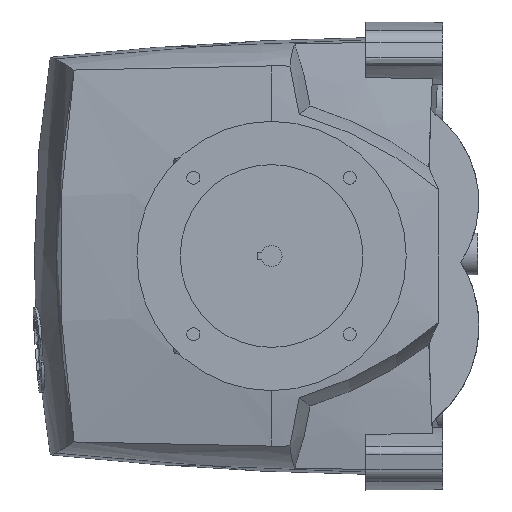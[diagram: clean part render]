
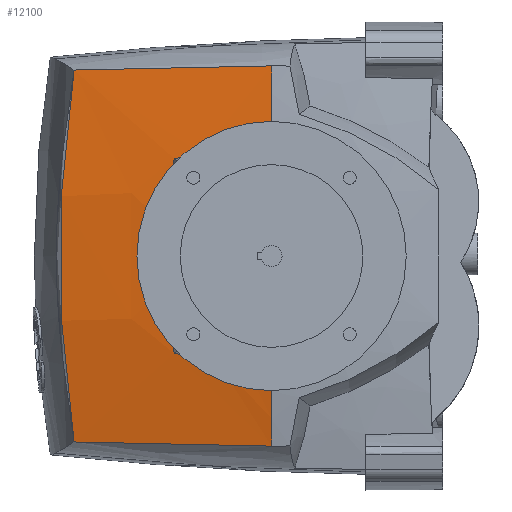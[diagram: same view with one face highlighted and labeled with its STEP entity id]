
A CAD part, left-side view. The second image highlights one B-rep face of the part: STEP entity #12100.
In plain terms, the highlighted free-form (B-spline) face has degree [3, 3] with [4, 4] control points.
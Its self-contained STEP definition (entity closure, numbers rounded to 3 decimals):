
#1861=CARTESIAN_POINT('',(-78.326,215.677,
-96.675));
#1862=CARTESIAN_POINT('',(-79.846,217.513,
-84.291));
#1863=CARTESIAN_POINT('',(-82.319,220.53,
-59.261));
#1864=CARTESIAN_POINT('',(-84.213,223.214,
-20.913));
#1865=CARTESIAN_POINT('',(-84.288,223.332,17.989));
#1866=CARTESIAN_POINT('',(-82.486,220.743,57.273));
#1867=CARTESIAN_POINT('',(-79.939,217.625,83.532));
#1868=CARTESIAN_POINT('',(-78.326,215.677,96.675));
#1931=CARTESIAN_POINT('',(589.642,113.006,
0.));
#1932=DIRECTION('',(0.,1.,0.));
#1933=DIRECTION('',(-0.99,0.,-0.144));
#1934=AXIS2_PLACEMENT_3D('',#1931,#1932,#1933);
#1936=CARTESIAN_POINT('',(-78.326,215.677,
-96.675));
#1937=CARTESIAN_POINT('',(-79.935,204.267,
-97.271));
#1938=CARTESIAN_POINT('',(-83.043,181.448,
-98.215));
#1939=CARTESIAN_POINT('',(-87.373,147.214,
-98.936));
#1940=CARTESIAN_POINT('',(-90.037,124.406,
-98.942));
#1941=CARTESIAN_POINT('',(-91.314,113.006,
-98.834));
#1943=CARTESIAN_POINT('',(-91.314,113.006,98.833));
#1944=CARTESIAN_POINT('',(-90.038,124.406,98.941));
#1945=CARTESIAN_POINT('',(-87.372,147.214,98.937));
#1946=CARTESIAN_POINT('',(-83.043,181.448,98.216));
#1947=CARTESIAN_POINT('',(-79.935,204.267,97.271));
#1948=CARTESIAN_POINT('',(-78.326,215.677,96.675));
#1950=CARTESIAN_POINT('',(589.642,113.006,
0.));
#1951=DIRECTION('',(0.,1.,0.));
#1952=DIRECTION('',(-0.997,0.,0.081));
#1953=AXIS2_PLACEMENT_3D('',#1950,#1951,#1952);
#1967=CARTESIAN_POINT('',(-90.566,163.6,50.6));
#1968=CARTESIAN_POINT('',(-90.926,165.596,42.327));
#1969=CARTESIAN_POINT('',(-91.487,168.604,25.547));
#1970=CARTESIAN_POINT('',(-91.759,170.119,
0.));
#1971=CARTESIAN_POINT('',(-91.486,168.604,
-25.547));
#1972=CARTESIAN_POINT('',(-90.925,165.596,
-42.327));
#1973=CARTESIAN_POINT('',(-90.566,163.6,
-50.6));
#2223=CARTESIAN_POINT('',(-96.183,112.991,55.818));
#2224=CARTESIAN_POINT('',(-95.55,118.676,55.931));
#2225=CARTESIAN_POINT('',(-94.294,130.001,55.688));
#2226=CARTESIAN_POINT('',(-92.413,146.926,53.945));
#2227=CARTESIAN_POINT('',(-91.181,158.075,51.865));
#2228=CARTESIAN_POINT('',(-90.566,163.6,50.6));
#2321=CARTESIAN_POINT('',(-90.566,163.6,
-50.6));
#2322=CARTESIAN_POINT('',(-91.18,158.075,
-51.865));
#2323=CARTESIAN_POINT('',(-92.413,146.925,
-53.945));
#2324=CARTESIAN_POINT('',(-94.293,130.002,
-55.688));
#2325=CARTESIAN_POINT('',(-95.55,118.674,
-55.93));
#2326=CARTESIAN_POINT('',(-96.183,112.995,
-55.818));
#8355=VERTEX_POINT('',#1861);
#8356=VERTEX_POINT('',#1868);
#8707=VERTEX_POINT('',#2223);
#8708=VERTEX_POINT('',#2228);
#8723=VERTEX_POINT('',#2321);
#8724=VERTEX_POINT('',#2326);
#8751=CARTESIAN_POINT('',(-91.315,113.006,98.833));
#8752=VERTEX_POINT('',#8751);
#8753=VERTEX_POINT('',#1941);
#12067=CARTESIAN_POINT('',(-76.188,225.431,
101.199));
#12068=CARTESIAN_POINT('',(-81.863,187.324,
102.061));
#12069=CARTESIAN_POINT('',(-86.76,149.107,
102.806));
#12070=CARTESIAN_POINT('',(-90.875,110.796,
103.431));
#12071=CARTESIAN_POINT('',(-86.403,225.431,
33.99));
#12072=CARTESIAN_POINT('',(-92.165,187.324,
34.28));
#12073=CARTESIAN_POINT('',(-97.137,149.107,
34.53));
#12074=CARTESIAN_POINT('',(-101.316,110.796,
34.74));
#12075=CARTESIAN_POINT('',(-86.403,225.431,
-33.99));
#12076=CARTESIAN_POINT('',(-92.165,187.324,
-34.28));
#12077=CARTESIAN_POINT('',(-97.137,149.107,
-34.53));
#12078=CARTESIAN_POINT('',(-101.316,110.796,
-34.74));
#12079=CARTESIAN_POINT('',(-76.188,225.431,
-101.198));
#12080=CARTESIAN_POINT('',(-81.863,187.324,
-102.061));
#12081=CARTESIAN_POINT('',(-86.76,149.107,
-102.805));
#12082=CARTESIAN_POINT('',(-90.875,110.796,
-103.431));
#12083=(BOUNDED_SURFACE()B_SPLINE_SURFACE(3,3,((#12067,#12068,#12069,#12070),(
#12071,#12072,#12073,#12074),(#12075,#12076,#12077,#12078),(#12079,#12080,
#12081,#12082)),.UNSPECIFIED.,.F.,.F.,.F.)B_SPLINE_SURFACE_WITH_KNOTS((4,4),(4,
4),(0.,1.),(0.,1.),.UNSPECIFIED.)GEOMETRIC_REPRESENTATION_ITEM()RATIONAL_B_SPLINE_SURFACE(((1.006,1.006,1.006,
1.006),(0.998,0.998,0.998,
0.998),(0.998,0.998,0.998,
0.998),(1.006,1.006,1.006,
1.006)))REPRESENTATION_ITEM('')SURFACE());
#12085=ORIENTED_EDGE('',*,*,#12084,.T.);
#12087=ORIENTED_EDGE('',*,*,#12086,.T.);
#12089=ORIENTED_EDGE('',*,*,#12088,.F.);
#12090=ORIENTED_EDGE('',*,*,#11699,.F.);
#12091=ORIENTED_EDGE('',*,*,#12053,.T.);
#12093=ORIENTED_EDGE('',*,*,#12092,.F.);
#12095=ORIENTED_EDGE('',*,*,#12094,.F.);
#12097=ORIENTED_EDGE('',*,*,#12096,.T.);
#12098=EDGE_LOOP('',(#12085,#12087,#12089,#12090,#12091,#12093,#12095,#12097));
#12099=FACE_OUTER_BOUND('',#12098,.F.);
#12100=ADVANCED_FACE('',(#12099),#12083,.T.);
#1869=B_SPLINE_CURVE_WITH_KNOTS('',3,(#1861,#1862,#1863,#1864,#1865,#1866,#1867,
#1868),.UNSPECIFIED.,.F.,.F.,(4,1,1,1,1,4),(0.,0.2,0.4,0.6,0.8,1.),
.UNSPECIFIED.);
#1935=CIRCLE('',#1934,688.091);
#1942=B_SPLINE_CURVE_WITH_KNOTS('',3,(#1936,#1937,#1938,#1939,#1940,#1941),
.UNSPECIFIED.,.F.,.F.,(4,1,1,4),(0.,0.333,0.667,1.),
.UNSPECIFIED.);
#1949=B_SPLINE_CURVE_WITH_KNOTS('',3,(#1943,#1944,#1945,#1946,#1947,#1948),
.UNSPECIFIED.,.F.,.F.,(4,1,1,4),(0.,0.333,0.667,1.),
.UNSPECIFIED.);
#1954=CIRCLE('',#1953,688.091);
#1974=B_SPLINE_CURVE_WITH_KNOTS('',3,(#1967,#1968,#1969,#1970,#1971,#1972,
#1973),.UNSPECIFIED.,.F.,.F.,(4,1,1,1,4),(0.,0.25,0.5,0.75,1.),
.UNSPECIFIED.);
#2229=B_SPLINE_CURVE_WITH_KNOTS('',3,(#2223,#2224,#2225,#2226,#2227,#2228),
.UNSPECIFIED.,.F.,.F.,(4,1,1,4),(0.,0.333,0.667,1.),
.UNSPECIFIED.);
#2327=B_SPLINE_CURVE_WITH_KNOTS('',3,(#2321,#2322,#2323,#2324,#2325,#2326),
.UNSPECIFIED.,.F.,.F.,(4,1,1,4),(0.,0.333,0.667,1.),
.UNSPECIFIED.);
#11699=EDGE_CURVE('',#8355,#8753,#1942,.T.);
#12053=EDGE_CURVE('',#8355,#8356,#1869,.T.);
#12084=EDGE_CURVE('',#8708,#8723,#1974,.T.);
#12086=EDGE_CURVE('',#8723,#8724,#2327,.T.);
#12088=EDGE_CURVE('',#8753,#8724,#1935,.T.);
#12092=EDGE_CURVE('',#8752,#8356,#1949,.T.);
#12094=EDGE_CURVE('',#8707,#8752,#1954,.T.);
#12096=EDGE_CURVE('',#8707,#8708,#2229,.T.);
